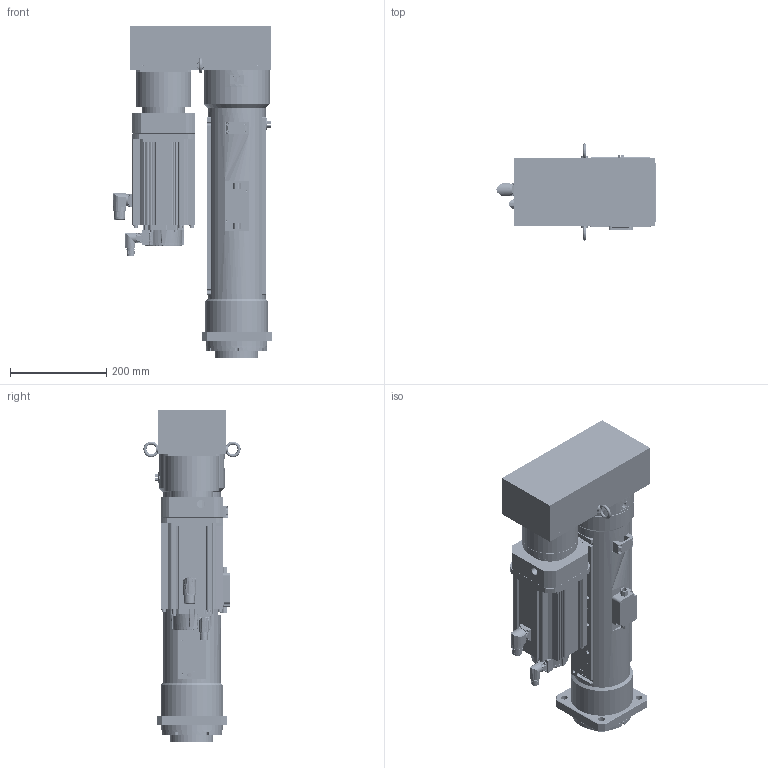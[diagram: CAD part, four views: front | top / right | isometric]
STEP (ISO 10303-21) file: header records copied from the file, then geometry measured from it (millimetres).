
FILE_DESCRIPTION( ('This file contains a STEP AP42 implementation' ,'as created by ZW3D STEP Interface translator.') ,'2;1' );
FILE_NAME( 'OACIS-DC-P035-P040-300-195-A6V400_V20.51.stp' ,'26 423.173011', (''), ('ZWCAD Software Co.'), 'Version 1.0', 'ZW3D to STEP translator', '' );
FILE_SCHEMA(('AUTOMOTIVE_DESIGN { 1 0 10303 214 1 1 1 1 }'));
Length unit declared in the file: millimetre
Products named in the file (1): 0
Bounding box: 331 x 202.25 x 691 mm (x, y, z)
Volume: 12394001.9 mm3; surface area: 2025724.5 mm2
Topology: 57 solids, 57 shells, 3851 faces, 9850 edges, 6316 vertices
Faces by surface type: cylinder 1837, plane 1470, cone 378, torus 107, bspline 47, sphere 12
Full cylindrical faces by diameter (mm): 1.25 x12, 1.567 x4, 2 x1, 2.232 x6, 2.459 x1, 2.8 x1, 3.242 x3, 3.3 x83, 4.2 x4, 4.3 x26, 4.5 x14, 4.917 x20, 5 x1, 5.3 x4, 5.5 x5, 6 x12, 6.647 x6, 6.8 x41, 7 x4, 8 x32, 8.4 x8, 8.5 x4, 9 x26, 9.5 x4, 9.78 x8, 10 x7, 10.104 x4, 10.106 x1, 10.2 x16, 10.5 x4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
Entity records: 135482 total; most frequent: CARTESIAN_POINT 32040, DIRECTION 21651, ORIENTED_EDGE 19488, EDGE_CURVE 9744, AXIS2_PLACEMENT_3D 8560, VERTEX_POINT 6313, CIRCLE 4726, EDGE_LOOP 4545
